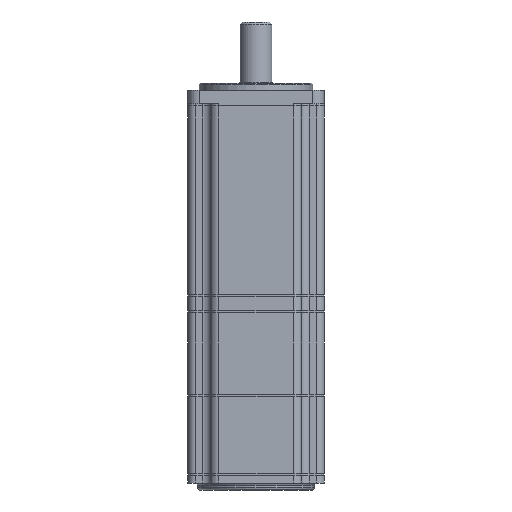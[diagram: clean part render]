
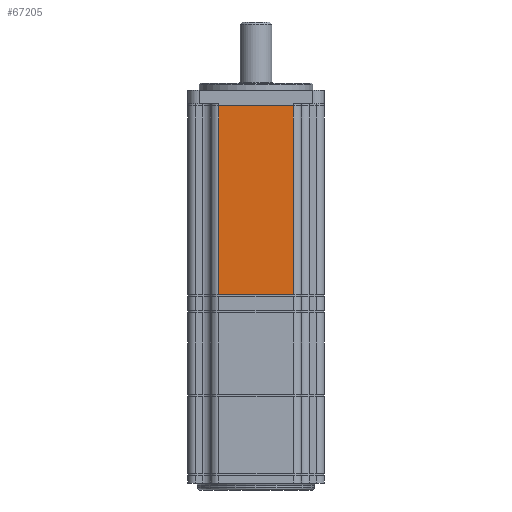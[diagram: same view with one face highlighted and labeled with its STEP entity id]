
A CAD part, front view. The second image highlights one B-rep face of the part: STEP entity #67205.
In plain terms, the highlighted planar face has unit normal (0, -1, 0).
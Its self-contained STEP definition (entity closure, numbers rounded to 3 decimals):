
#2302 = VERTEX_POINT ( 'NONE', #45044 ) ;
#5347 = VECTOR ( 'NONE', #79825, 1000. ) ;
#10379 = DIRECTION ( 'NONE',  ( 0., 0., 1. ) ) ;
#10502 = EDGE_CURVE ( 'NONE', #28499, #13424, #36920, .T. ) ;
#12022 = VERTEX_POINT ( 'NONE', #12845 ) ;
#12845 = CARTESIAN_POINT ( 'NONE',  ( 16.5, -30., -1. ) ) ;
#13424 = VERTEX_POINT ( 'NONE', #34707 ) ;
#13946 = VECTOR ( 'NONE', #28427, 1000. ) ;
#18179 = VECTOR ( 'NONE', #94131, 1000. ) ;
#27901 = LINE ( 'NONE', #41608, #5347 ) ;
#28427 = DIRECTION ( 'NONE',  ( -1., 0., 0. ) ) ;
#28499 = VERTEX_POINT ( 'NONE', #85039 ) ;
#30297 = CARTESIAN_POINT ( 'NONE',  ( -16.5, -30., -84. ) ) ;
#33147 = EDGE_LOOP ( 'NONE', ( #82030, #82628, #53793, #77672 ) ) ;
#34707 = CARTESIAN_POINT ( 'NONE',  ( -16.5, -30., -84. ) ) ;
#36920 = LINE ( 'NONE', #30297, #72612 ) ;
#40586 = CARTESIAN_POINT ( 'NONE',  ( 20., -30., -84. ) ) ;
#41608 = CARTESIAN_POINT ( 'NONE',  ( 20., -30., -1. ) ) ;
#45044 = CARTESIAN_POINT ( 'NONE',  ( 16.5, -30., -84. ) ) ;
#48663 = CARTESIAN_POINT ( 'NONE',  ( 16.5, -30., -84. ) ) ;
#53793 = ORIENTED_EDGE ( 'NONE', *, *, #92101, .T. ) ;
#55864 = DIRECTION ( 'NONE',  ( 0., 1., 0. ) ) ;
#58608 = LINE ( 'NONE', #48663, #18179 ) ;
#62098 = FACE_OUTER_BOUND ( 'NONE', #33147, .T. ) ;
#63182 = PLANE ( 'NONE',  #74676 ) ;
#67205 = ADVANCED_FACE ( 'NONE', ( #62098 ), #63182, .F. ) ;
#69457 = EDGE_CURVE ( 'NONE', #2302, #13424, #74560, .T. ) ;
#71999 = EDGE_CURVE ( 'NONE', #2302, #12022, #58608, .T. ) ;
#72612 = VECTOR ( 'NONE', #83089, 1000. ) ;
#74560 = LINE ( 'NONE', #81586, #13946 ) ;
#74676 = AXIS2_PLACEMENT_3D ( 'NONE', #40586, #55864, #10379 ) ;
#77672 = ORIENTED_EDGE ( 'NONE', *, *, #10502, .T. ) ;
#79825 = DIRECTION ( 'NONE',  ( -1., 0., 0. ) ) ;
#81586 = CARTESIAN_POINT ( 'NONE',  ( 20., -30., -84. ) ) ;
#82030 = ORIENTED_EDGE ( 'NONE', *, *, #69457, .F. ) ;
#82628 = ORIENTED_EDGE ( 'NONE', *, *, #71999, .T. ) ;
#83089 = DIRECTION ( 'NONE',  ( 0., 0., -1. ) ) ;
#85039 = CARTESIAN_POINT ( 'NONE',  ( -16.5, -30., -1. ) ) ;
#92101 = EDGE_CURVE ( 'NONE', #12022, #28499, #27901, .T. ) ;
#94131 = DIRECTION ( 'NONE',  ( 0., 0., 1. ) ) ;
